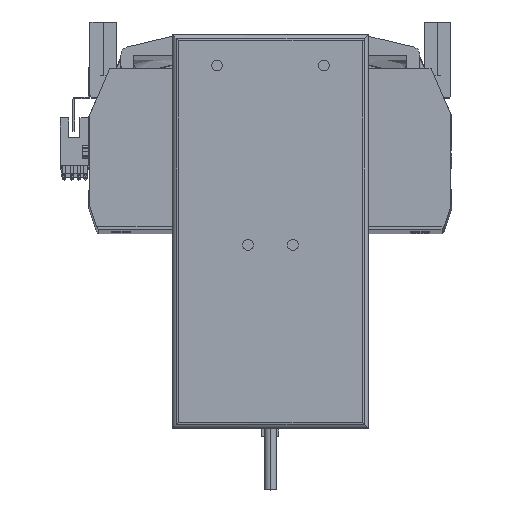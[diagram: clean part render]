
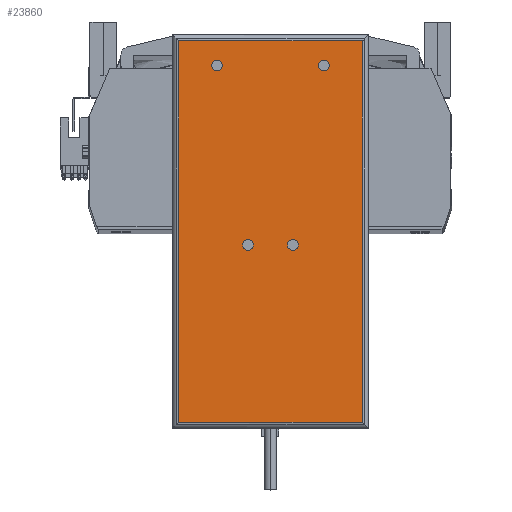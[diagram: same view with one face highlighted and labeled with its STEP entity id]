
A CAD part, top view. The second image highlights one B-rep face of the part: STEP entity #23860.
In plain terms, the highlighted planar face has unit normal (0, 0, 1) as drawn and (0, 0, -1) by its records, which use the part's own axes.
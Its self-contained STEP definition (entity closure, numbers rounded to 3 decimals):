
#517 = CARTESIAN_POINT ( 'NONE',  ( 10.5, -6.25, 0. ) ) ;
#553 = ORIENTED_EDGE ( 'NONE', *, *, #47390, .F. ) ;
#1116 = VERTEX_POINT ( 'NONE', #8206 ) ;
#1349 = DIRECTION ( 'NONE',  ( -1., 0., 0. ) ) ;
#1397 = CIRCLE ( 'NONE', #24925, 2.5 ) ;
#1420 = AXIS2_PLACEMENT_3D ( 'NONE', #47229, #12891, #1349 ) ;
#1660 = DIRECTION ( 'NONE',  ( -1., 0., 0. ) ) ;
#1801 = ORIENTED_EDGE ( 'NONE', *, *, #27405, .T. ) ;
#4307 = VECTOR ( 'NONE', #42671, 1000. ) ;
#4418 = EDGE_CURVE ( 'NONE', #10613, #12654, #22003, .T. ) ;
#4634 = DIRECTION ( 'NONE',  ( 0., 0., -1. ) ) ;
#4786 = CARTESIAN_POINT ( 'NONE',  ( 10.5, -6.25, 0. ) ) ;
#4969 = VERTEX_POINT ( 'NONE', #38057 ) ;
#5129 = AXIS2_PLACEMENT_3D ( 'NONE', #46526, #23485, #35101 ) ;
#5498 = CARTESIAN_POINT ( 'NONE',  ( 27.5, 77.75, 0. ) ) ;
#5597 = CARTESIAN_POINT ( 'NONE',  ( -22.5, 77.75, 0. ) ) ;
#5935 = AXIS2_PLACEMENT_3D ( 'NONE', #43831, #9146, #1660 ) ;
#6436 = AXIS2_PLACEMENT_3D ( 'NONE', #37681, #18506, #22368 ) ;
#6814 = CARTESIAN_POINT ( 'NONE',  ( -10.5, -6.25, 0. ) ) ;
#6952 = FACE_BOUND ( 'NONE', #31636, .T. ) ;
#7229 = ORIENTED_EDGE ( 'NONE', *, *, #19114, .F. ) ;
#7842 = DIRECTION ( 'NONE',  ( 1., 0., 0. ) ) ;
#8206 = CARTESIAN_POINT ( 'NONE',  ( -13., -6.25, 0. ) ) ;
#9146 = DIRECTION ( 'NONE',  ( 0., 0., -1. ) ) ;
#9503 = ORIENTED_EDGE ( 'NONE', *, *, #48424, .T. ) ;
#10183 = DIRECTION ( 'NONE',  ( 0., 0., -1. ) ) ;
#10601 = EDGE_LOOP ( 'NONE', ( #9503, #1801, #31702, #21874 ) ) ;
#10613 = VERTEX_POINT ( 'NONE', #5597 ) ;
#11343 = LINE ( 'NONE', #23640, #25226 ) ;
#11534 = CARTESIAN_POINT ( 'NONE',  ( -46., -92.25, 0. ) ) ;
#11687 = CARTESIAN_POINT ( 'NONE',  ( -43., -92.25, 0. ) ) ;
#12030 = VERTEX_POINT ( 'NONE', #40655 ) ;
#12294 = CARTESIAN_POINT ( 'NONE',  ( 43., 89.25, 0. ) ) ;
#12654 = VERTEX_POINT ( 'NONE', #37385 ) ;
#12844 = ORIENTED_EDGE ( 'NONE', *, *, #32264, .F. ) ;
#12891 = DIRECTION ( 'NONE',  ( 0., 0., -1. ) ) ;
#12951 = FACE_OUTER_BOUND ( 'NONE', #10601, .T. ) ;
#13185 = AXIS2_PLACEMENT_3D ( 'NONE', #47161, #4634, #47496 ) ;
#13769 = CIRCLE ( 'NONE', #18145, 2.5 ) ;
#14392 = DIRECTION ( 'NONE',  ( -1., 0., 0. ) ) ;
#14614 = VERTEX_POINT ( 'NONE', #5498 ) ;
#14931 = PLANE ( 'NONE',  #18223 ) ;
#14946 = ORIENTED_EDGE ( 'NONE', *, *, #46979, .F. ) ;
#16262 = CARTESIAN_POINT ( 'NONE',  ( -8., -6.25, 0. ) ) ;
#17209 = FACE_BOUND ( 'NONE', #27132, .T. ) ;
#17933 = CARTESIAN_POINT ( 'NONE',  ( -46., -89.25, 0. ) ) ;
#18145 = AXIS2_PLACEMENT_3D ( 'NONE', #517, #20157, #38833 ) ;
#18170 = CIRCLE ( 'NONE', #34493, 2.5 ) ;
#18223 = AXIS2_PLACEMENT_3D ( 'NONE', #11534, #30895, #7842 ) ;
#18506 = DIRECTION ( 'NONE',  ( 0., 0., -1. ) ) ;
#19114 = EDGE_CURVE ( 'NONE', #1116, #40307, #18170, .T. ) ;
#19563 = FACE_BOUND ( 'NONE', #30763, .T. ) ;
#20157 = DIRECTION ( 'NONE',  ( 0., 0., -1. ) ) ;
#21593 = EDGE_CURVE ( 'NONE', #21910, #30088, #13769, .T. ) ;
#21874 = ORIENTED_EDGE ( 'NONE', *, *, #49426, .T. ) ;
#21910 = VERTEX_POINT ( 'NONE', #45521 ) ;
#22003 = CIRCLE ( 'NONE', #1420, 2.5 ) ;
#22368 = DIRECTION ( 'NONE',  ( -1., 0., 0. ) ) ;
#22597 = FACE_BOUND ( 'NONE', #27088, .T. ) ;
#23133 = CARTESIAN_POINT ( 'NONE',  ( 43., -92.25, 0. ) ) ;
#23485 = DIRECTION ( 'NONE',  ( 0., 0., -1. ) ) ;
#23640 = CARTESIAN_POINT ( 'NONE',  ( -46., 89.25, 0. ) ) ;
#23860 = ADVANCED_FACE ( 'NONE', ( #12951, #6952, #22597, #17209, #19563 ), #14931, .F. ) ;
#24925 = AXIS2_PLACEMENT_3D ( 'NONE', #4786, #31469, #39569 ) ;
#25226 = VECTOR ( 'NONE', #46685, 1000. ) ;
#26147 = ORIENTED_EDGE ( 'NONE', *, *, #21593, .F. ) ;
#26585 = CIRCLE ( 'NONE', #5935, 2.5 ) ;
#27088 = EDGE_LOOP ( 'NONE', ( #553, #26147 ) ) ;
#27132 = EDGE_LOOP ( 'NONE', ( #48596, #39493 ) ) ;
#27143 = EDGE_CURVE ( 'NONE', #12654, #10613, #40006, .T. ) ;
#27405 = EDGE_CURVE ( 'NONE', #42416, #4969, #33312, .T. ) ;
#29495 = EDGE_CURVE ( 'NONE', #40307, #1116, #32649, .T. ) ;
#30033 = EDGE_CURVE ( 'NONE', #4969, #12030, #45817, .T. ) ;
#30066 = ORIENTED_EDGE ( 'NONE', *, *, #29495, .F. ) ;
#30088 = VERTEX_POINT ( 'NONE', #47389 ) ;
#30112 = CARTESIAN_POINT ( 'NONE',  ( 43., -89.25, 0. ) ) ;
#30763 = EDGE_LOOP ( 'NONE', ( #12844, #14946 ) ) ;
#30895 = DIRECTION ( 'NONE',  ( 0., 0., 1. ) ) ;
#31338 = LINE ( 'NONE', #23133, #41611 ) ;
#31469 = DIRECTION ( 'NONE',  ( 0., 0., -1. ) ) ;
#31636 = EDGE_LOOP ( 'NONE', ( #7229, #30066 ) ) ;
#31702 = ORIENTED_EDGE ( 'NONE', *, *, #30033, .T. ) ;
#32264 = EDGE_CURVE ( 'NONE', #43226, #14614, #41469, .T. ) ;
#32649 = CIRCLE ( 'NONE', #13185, 2.5 ) ;
#33312 = LINE ( 'NONE', #17933, #47193 ) ;
#34493 = AXIS2_PLACEMENT_3D ( 'NONE', #6814, #10183, #14392 ) ;
#35101 = DIRECTION ( 'NONE',  ( -1., 0., 0. ) ) ;
#35939 = VERTEX_POINT ( 'NONE', #12294 ) ;
#37385 = CARTESIAN_POINT ( 'NONE',  ( -27.5, 77.75, 0. ) ) ;
#37681 = CARTESIAN_POINT ( 'NONE',  ( 25., 77.75, 0. ) ) ;
#38057 = CARTESIAN_POINT ( 'NONE',  ( -43., -89.25, 0. ) ) ;
#38833 = DIRECTION ( 'NONE',  ( -1., 0., 0. ) ) ;
#39493 = ORIENTED_EDGE ( 'NONE', *, *, #4418, .F. ) ;
#39569 = DIRECTION ( 'NONE',  ( -1., 0., 0. ) ) ;
#40006 = CIRCLE ( 'NONE', #5129, 2.5 ) ;
#40307 = VERTEX_POINT ( 'NONE', #16262 ) ;
#40655 = CARTESIAN_POINT ( 'NONE',  ( -43., 89.25, 0. ) ) ;
#40816 = DIRECTION ( 'NONE',  ( -1., 0., 0. ) ) ;
#41469 = CIRCLE ( 'NONE', #6436, 2.5 ) ;
#41611 = VECTOR ( 'NONE', #49869, 1000. ) ;
#42416 = VERTEX_POINT ( 'NONE', #30112 ) ;
#42671 = DIRECTION ( 'NONE',  ( 0., 1., 0. ) ) ;
#43226 = VERTEX_POINT ( 'NONE', #48840 ) ;
#43831 = CARTESIAN_POINT ( 'NONE',  ( 25., 77.75, 0. ) ) ;
#45521 = CARTESIAN_POINT ( 'NONE',  ( 13., -6.25, 0. ) ) ;
#45817 = LINE ( 'NONE', #11687, #4307 ) ;
#46526 = CARTESIAN_POINT ( 'NONE',  ( -25., 77.75, 0. ) ) ;
#46685 = DIRECTION ( 'NONE',  ( 1., 0., 0. ) ) ;
#46979 = EDGE_CURVE ( 'NONE', #14614, #43226, #26585, .T. ) ;
#47161 = CARTESIAN_POINT ( 'NONE',  ( -10.5, -6.25, 0. ) ) ;
#47193 = VECTOR ( 'NONE', #40816, 1000. ) ;
#47229 = CARTESIAN_POINT ( 'NONE',  ( -25., 77.75, 0. ) ) ;
#47389 = CARTESIAN_POINT ( 'NONE',  ( 8., -6.25, 0. ) ) ;
#47390 = EDGE_CURVE ( 'NONE', #30088, #21910, #1397, .T. ) ;
#47496 = DIRECTION ( 'NONE',  ( -1., 0., 0. ) ) ;
#48424 = EDGE_CURVE ( 'NONE', #35939, #42416, #31338, .T. ) ;
#48596 = ORIENTED_EDGE ( 'NONE', *, *, #27143, .F. ) ;
#48840 = CARTESIAN_POINT ( 'NONE',  ( 22.5, 77.75, 0. ) ) ;
#49426 = EDGE_CURVE ( 'NONE', #12030, #35939, #11343, .T. ) ;
#49869 = DIRECTION ( 'NONE',  ( 0., -1., 0. ) ) ;
